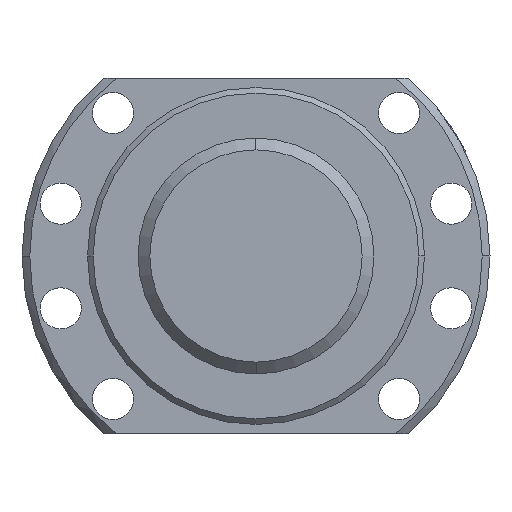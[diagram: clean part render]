
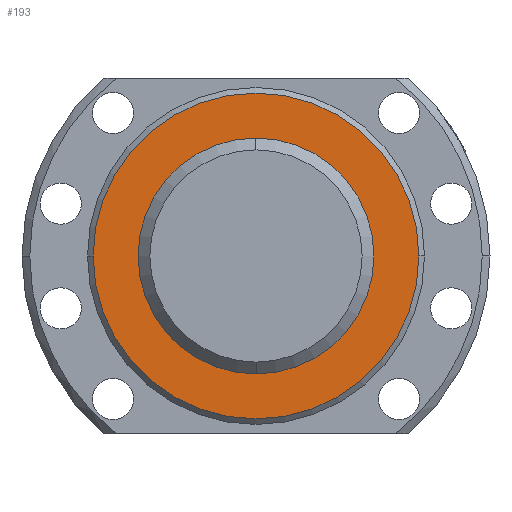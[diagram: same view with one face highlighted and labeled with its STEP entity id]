
A CAD part, left-side view. The second image highlights one B-rep face of the part: STEP entity #193.
In plain terms, the highlighted planar face has unit normal (-1, 0, 0).
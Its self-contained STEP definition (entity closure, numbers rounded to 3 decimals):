
#193 = ADVANCED_FACE( '', ( #361, #362 ), #363, .T. );
#361 = FACE_BOUND( '', #530, .T. );
#362 = FACE_OUTER_BOUND( '', #531, .T. );
#363 = PLANE( '', #532 );
#530 = EDGE_LOOP( '', ( #1073, #1074 ) );
#531 = EDGE_LOOP( '', ( #1075, #1076 ) );
#532 = AXIS2_PLACEMENT_3D( '', #1077, #1078, #1079 );
#1073 = ORIENTED_EDGE( '', *, *, #1235, .F. );
#1074 = ORIENTED_EDGE( '', *, *, #1149, .F. );
#1075 = ORIENTED_EDGE( '', *, *, #1121, .T. );
#1076 = ORIENTED_EDGE( '', *, *, #1246, .T. );
#1077 = CARTESIAN_POINT( '', ( 5., 37.5, 0. ) );
#1078 = DIRECTION( '', ( -1., 0., 0. ) );
#1079 = DIRECTION( '', ( 0., 1., 0. ) );
#1121 = EDGE_CURVE( '', #1310, #1314, #1316, .T. );
#1149 = EDGE_CURVE( '', #1366, #1362, #1368, .T. );
#1235 = EDGE_CURVE( '', #1362, #1366, #1509, .T. );
#1246 = EDGE_CURVE( '', #1314, #1310, #1520, .T. );
#1310 = VERTEX_POINT( '', #1598 );
#1314 = VERTEX_POINT( '', #1603 );
#1316 = CIRCLE( '', #1606, 43.5 );
#1362 = VERTEX_POINT( '', #1682 );
#1366 = VERTEX_POINT( '', #1687 );
#1368 = CIRCLE( '', #1690, 31.5 );
#1509 = CIRCLE( '', #2049, 31.5 );
#1520 = CIRCLE( '', #2060, 43.5 );
#1598 = CARTESIAN_POINT( '', ( 5., 43.5, 0. ) );
#1603 = CARTESIAN_POINT( '', ( 5., -43.5, 0. ) );
#1606 = AXIS2_PLACEMENT_3D( '', #2152, #2153, #2154 );
#1682 = CARTESIAN_POINT( '', ( 5., 31.5, 0. ) );
#1687 = CARTESIAN_POINT( '', ( 5., -31.5, 0. ) );
#1690 = AXIS2_PLACEMENT_3D( '', #2202, #2203, #2204 );
#2049 = AXIS2_PLACEMENT_3D( '', #2367, #2368, #2369 );
#2060 = AXIS2_PLACEMENT_3D( '', #2400, #2401, #2402 );
#2152 = CARTESIAN_POINT( '', ( 5., 0., 0. ) );
#2153 = DIRECTION( '', ( -1., 0., 0. ) );
#2154 = DIRECTION( '', ( 0., 1., 0. ) );
#2202 = CARTESIAN_POINT( '', ( 5., 0., 0. ) );
#2203 = DIRECTION( '', ( -1., 0., 0. ) );
#2204 = DIRECTION( '', ( 0., 1., 0. ) );
#2367 = CARTESIAN_POINT( '', ( 5., 0., 0. ) );
#2368 = DIRECTION( '', ( -1., 0., 0. ) );
#2369 = DIRECTION( '', ( 0., 1., 0. ) );
#2400 = CARTESIAN_POINT( '', ( 5., 0., 0. ) );
#2401 = DIRECTION( '', ( -1., 0., 0. ) );
#2402 = DIRECTION( '', ( 0., 1., 0. ) );
